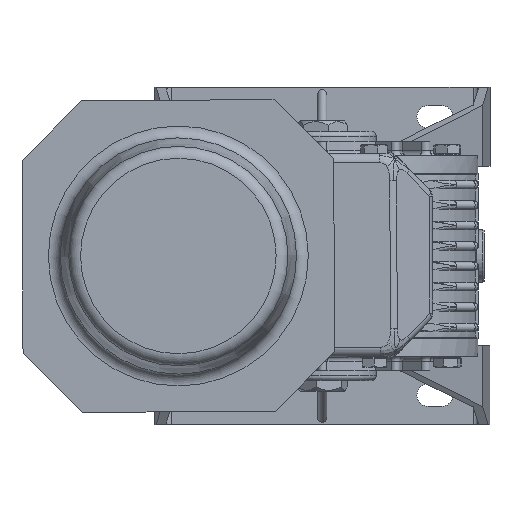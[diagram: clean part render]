
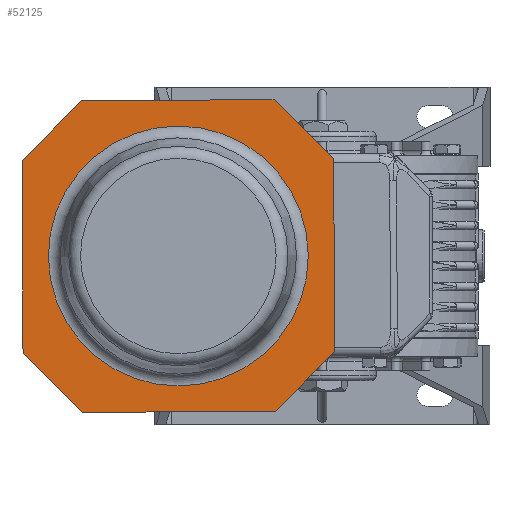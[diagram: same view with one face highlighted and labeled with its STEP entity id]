
A CAD part, left-side view. The second image highlights one B-rep face of the part: STEP entity #52125.
In plain terms, the highlighted planar face has unit normal (-1, 0, 0) as drawn and (1, 0, 0) by its records, which use the part's own axes.
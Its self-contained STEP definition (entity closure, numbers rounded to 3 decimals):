
#52019=CARTESIAN_POINT('',(209.0,0.,54.212));
#52020=VERTEX_POINT('',#52019);
#52021=CARTESIAN_POINT('',(209.0,0.0,0.0));
#52022=DIRECTION('',(1.0,0.0,0.0));
#52023=DIRECTION('',(0.0,0.0,-1.0));
#52024=AXIS2_PLACEMENT_3D('',#52021,#52022,#52023);
#52025=CIRCLE('',#52024,54.212);
#52026=EDGE_CURVE('',#52020,#52020,#52025,.T.);
#52051=CARTESIAN_POINT('',(209.0,28.6,0.0));
#52052=DIRECTION('',(1.0,0.0,0.0));
#52053=DIRECTION('',(0.0,0.0,-1.0));
#52054=AXIS2_PLACEMENT_3D('',#52051,#52052,#52053);
#52055=PLANE('',#52054);
#52056=CARTESIAN_POINT('',(209.0,-65.0,40.251));
#52057=VERTEX_POINT('',#52056);
#52058=CARTESIAN_POINT('',(209.0,-40.251,65.0));
#52059=VERTEX_POINT('',#52058);
#52060=CARTESIAN_POINT('',(209.0,-65.0,40.251));
#52061=DIRECTION('',(0.0,0.707,0.707));
#52062=VECTOR('',#52061,35.);
#52063=LINE('',#52060,#52062);
#52064=EDGE_CURVE('',#52057,#52059,#52063,.T.);
#52065=ORIENTED_EDGE('',*,*,#52064,.F.);
#52066=CARTESIAN_POINT('',(209.0,-65.0,-40.251));
#52067=VERTEX_POINT('',#52066);
#52068=CARTESIAN_POINT('',(209.0,-65.0,-40.251));
#52069=DIRECTION('',(0.0,0.0,1.0));
#52070=VECTOR('',#52069,80.503);
#52071=LINE('',#52068,#52070);
#52072=EDGE_CURVE('',#52067,#52057,#52071,.T.);
#52073=ORIENTED_EDGE('',*,*,#52072,.F.);
#52074=CARTESIAN_POINT('',(209.0,-40.251,-65.0));
#52075=VERTEX_POINT('',#52074);
#52076=CARTESIAN_POINT('',(209.0,-40.251,-65.0));
#52077=DIRECTION('',(0.0,-0.707,0.707));
#52078=VECTOR('',#52077,35.);
#52079=LINE('',#52076,#52078);
#52080=EDGE_CURVE('',#52075,#52067,#52079,.T.);
#52081=ORIENTED_EDGE('',*,*,#52080,.F.);
#52082=CARTESIAN_POINT('',(209.0,40.251,-65.0));
#52083=VERTEX_POINT('',#52082);
#52084=CARTESIAN_POINT('',(209.0,40.251,-65.0));
#52085=DIRECTION('',(0.0,-1.0,0.0));
#52086=VECTOR('',#52085,80.503);
#52087=LINE('',#52084,#52086);
#52088=EDGE_CURVE('',#52083,#52075,#52087,.T.);
#52089=ORIENTED_EDGE('',*,*,#52088,.F.);
#52090=CARTESIAN_POINT('',(209.0,65.0,-40.251));
#52091=VERTEX_POINT('',#52090);
#52092=CARTESIAN_POINT('',(209.0,65.0,-40.251));
#52093=DIRECTION('',(0.0,-0.707,-0.707));
#52094=VECTOR('',#52093,35.0);
#52095=LINE('',#52092,#52094);
#52096=EDGE_CURVE('',#52091,#52083,#52095,.T.);
#52097=ORIENTED_EDGE('',*,*,#52096,.F.);
#52098=CARTESIAN_POINT('',(209.0,65.0,40.251));
#52099=VERTEX_POINT('',#52098);
#52100=CARTESIAN_POINT('',(209.0,65.0,40.251));
#52101=DIRECTION('',(0.0,0.0,-1.0));
#52102=VECTOR('',#52101,80.503);
#52103=LINE('',#52100,#52102);
#52104=EDGE_CURVE('',#52099,#52091,#52103,.T.);
#52105=ORIENTED_EDGE('',*,*,#52104,.F.);
#52106=CARTESIAN_POINT('',(209.0,40.251,65.0));
#52107=VERTEX_POINT('',#52106);
#52108=CARTESIAN_POINT('',(209.0,40.251,65.0));
#52109=DIRECTION('',(0.0,0.707,-0.707));
#52110=VECTOR('',#52109,35.0);
#52111=LINE('',#52108,#52110);
#52112=EDGE_CURVE('',#52107,#52099,#52111,.T.);
#52113=ORIENTED_EDGE('',*,*,#52112,.F.);
#52114=CARTESIAN_POINT('',(209.0,-40.251,65.0));
#52115=DIRECTION('',(0.0,1.0,0.0));
#52116=VECTOR('',#52115,80.503);
#52117=LINE('',#52114,#52116);
#52118=EDGE_CURVE('',#52059,#52107,#52117,.T.);
#52119=ORIENTED_EDGE('',*,*,#52118,.F.);
#52120=EDGE_LOOP('',(#52065,#52073,#52081,#52089,#52097,#52105,#52113,#52119));
#52121=FACE_OUTER_BOUND('',#52120,.T.);
#52122=ORIENTED_EDGE('',*,*,#52026,.F.);
#52123=EDGE_LOOP('',(#52122));
#52124=FACE_BOUND('',#52123,.T.);
#52125=ADVANCED_FACE('',(#52121,#52124),#52055,.T.);
